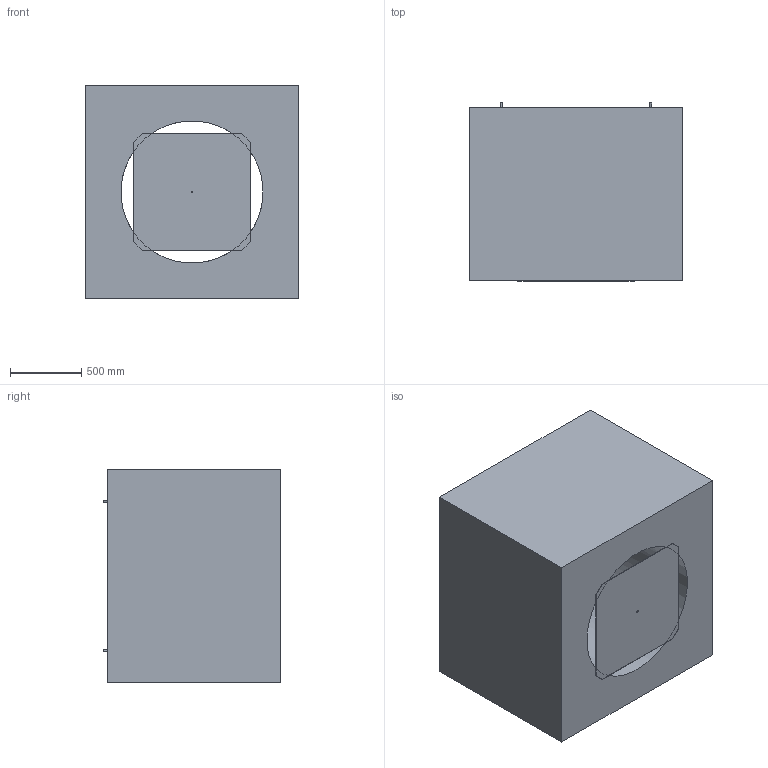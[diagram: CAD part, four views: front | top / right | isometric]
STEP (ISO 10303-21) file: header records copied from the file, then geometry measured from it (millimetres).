
FILE_DESCRIPTION(/* description */ (''),/* implementation_level */ '2;1');
FILE_NAME(/* name */ 'Z:\Output\SSD 710-05287-001.stp',/* time_stamp */ '2017-06-13T15:21:04+02:00',/* author */ ('engineering1'),/* organization */ (''),/* preprocessor_version */ 'ST-DEVELOPER v16.5',/* originating_system */ 'Autodesk Inventor 2017',/* authorisation */ '');
FILE_SCHEMA (('AUTOMOTIVE_DESIGN { 1 0 10303 214 3 1 1 }'));
Length unit declared in the file: millimetre
Products named in the file (1): FSD-1
Bounding box: 1500 x 1250 x 1500 mm (x, y, z)
Volume: 1777083806.5 mm3; surface area: 15370600.8 mm2
Topology: 5 solids, 5 shells, 35 faces, 82 edges, 52 vertices
Faces by surface type: plane 29, cylinder 6
Full cylindrical faces by diameter (mm): 11 x1, 12 x4, 1000 x1
Entity records: 1006 total; most frequent: DIRECTION 166, CARTESIAN_POINT 162, ORIENTED_EDGE 150, EDGE_CURVE 75, LINE 56, VECTOR 56, AXIS2_PLACEMENT_3D 55, VERTEX_POINT 51
